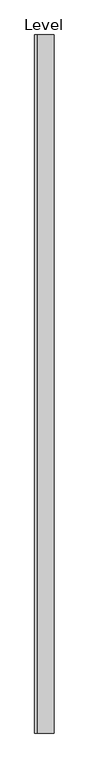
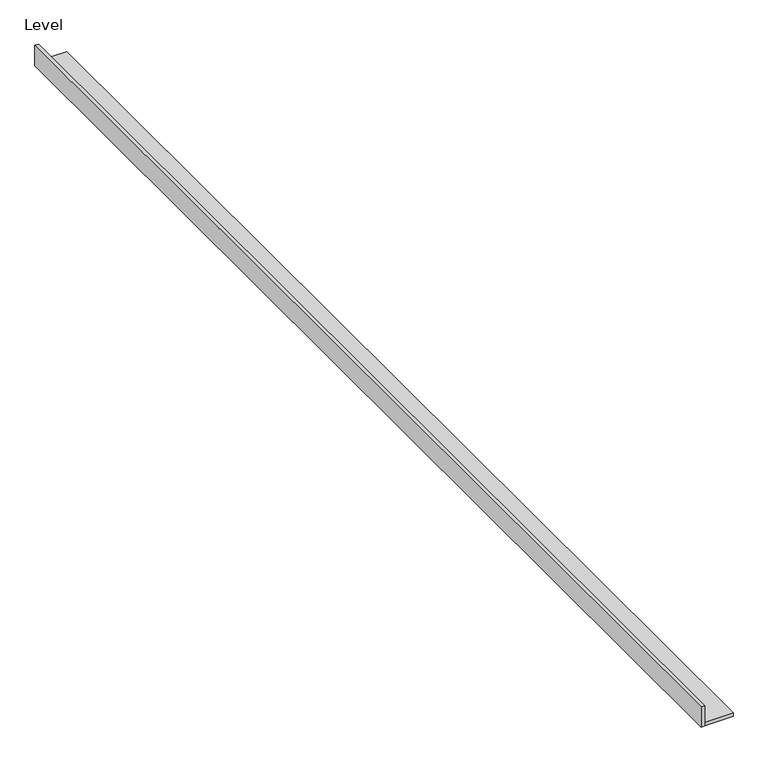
"""IFC4 building model written with IfcOpenShell, lengths in millimetres: proxy geometry, Wall-Panel-Kirei-Level_Fins : Level."""

from ifc_helpers import new_model, si_unit, origin, origin_with_axes, place, context, project, spatial, polyline, outline, extrude, source, transform, mapped, element, save


def level_2c6370f1(model_context):
    return source(origin(), model_context, "Body", "SweptSolid", [
        extrude(outline(polyline([(-600.5710938, 1371.6), (-600.5710938, -1371.6), (-609.6, -1371.6), (-609.6, 1371.6), (-600.5710938, 1371.6)])), origin_with_axes(), (0.0, 0.0, 1.0), 50.8),
        extrude(outline(polyline([(-533.5984375, 1371.6), (-533.5984375, -1371.6), (-600.5710937, -1371.6), (-600.5710937, 1371.6), (-533.5984375, 1371.6)])), origin_with_axes(), (0.0, 0.0, 1.0), 9.0289062),
    ])


if __name__ == "__main__":
    model = new_model("IFC4")
    model_context = context("Model", 3, world=origin())
    ifc_project = project(units=[si_unit("LENGTHUNIT", "METRE", prefix="MILLI")], contexts=[model_context])
    site = spatial("IfcSite", under=ifc_project)
    building = spatial("IfcBuilding", under=site)
    placement = place(None, origin())
    level_shape = level_2c6370f1(model_context)
    element("IfcBuildingElementProxy", 1, Name="Wall-Panel-Kirei-Level_Fins : Level", ObjectType="Wall-Panel-Kirei-Level_Fins : Level", at=placement, inside=building, context=model_context, shape_type="MappedRepresentation", body=[
        mapped(level_shape, transform((0.0, 0.0, 0.0), x_axis=(1.0, 0.0, 0.0), y_axis=(0.0, 1.0, 0.0), z_axis=(0.0, 0.0, 1.0))),
    ])
    save(model, "model.ifc")
